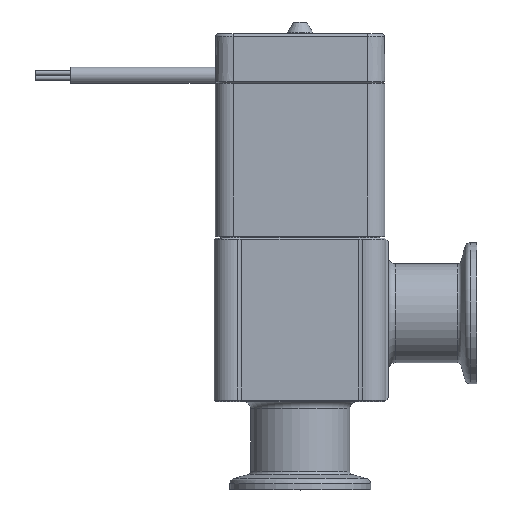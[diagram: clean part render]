
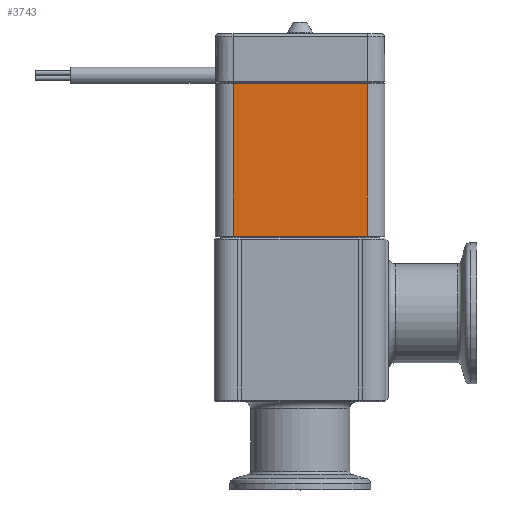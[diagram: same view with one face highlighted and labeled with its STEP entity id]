
A CAD part, top view. The second image highlights one B-rep face of the part: STEP entity #3743.
In plain terms, the highlighted planar face has unit normal (0, 0, 1) as drawn and (0, 0, -1) by its records, which use the part's own axes.
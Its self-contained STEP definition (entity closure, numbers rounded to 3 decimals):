
#2055=FACE_OUTER_BOUND('',#5095,.T.);
#2411=LINE('',#14332,#3062);
#2416=LINE('',#14368,#3067);
#2417=LINE('',#14380,#3068);
#2418=LINE('',#14382,#3069);
#3062=VECTOR('',#11661,1.);
#3067=VECTOR('',#11694,1.);
#3068=VECTOR('',#11707,1.);
#3069=VECTOR('',#11710,1.);
#3743=ADVANCED_FACE('',(#2055),#4203,.F.);
#4203=PLANE('',#10458);
#5095=EDGE_LOOP('',(#6090,#6091,#6092,#6093));
#6090=ORIENTED_EDGE('',*,*,#8926,.T.);
#6091=ORIENTED_EDGE('',*,*,#8933,.F.);
#6092=ORIENTED_EDGE('',*,*,#8908,.F.);
#6093=ORIENTED_EDGE('',*,*,#8932,.T.);
#8053=VERTEX_POINT('',#14331);
#8054=VERTEX_POINT('',#14333);
#8070=VERTEX_POINT('',#14367);
#8071=VERTEX_POINT('',#14369);
#8908=EDGE_CURVE('',#8053,#8054,#2411,.T.);
#8926=EDGE_CURVE('',#8071,#8070,#2416,.T.);
#8932=EDGE_CURVE('',#8053,#8071,#2417,.T.);
#8933=EDGE_CURVE('',#8054,#8070,#2418,.T.);
#10458=AXIS2_PLACEMENT_3D('',#14383,#11711,#11712);
#11661=DIRECTION('',(-1.,0.,0.));
#11694=DIRECTION('',(-1.,0.,0.));
#11707=DIRECTION('',(0.,-1.,0.));
#11710=DIRECTION('',(0.,-1.,0.));
#11711=DIRECTION('',(0.,0.,1.));
#11712=DIRECTION('',(1.,0.,0.));
#14331=CARTESIAN_POINT('',(19.,43.3,-24.));
#14332=CARTESIAN_POINT('',(19.,43.3,-24.));
#14333=CARTESIAN_POINT('',(-19.,43.3,-24.));
#14367=CARTESIAN_POINT('',(-19.,0.,-24.));
#14368=CARTESIAN_POINT('',(19.,0.,-24.));
#14369=CARTESIAN_POINT('',(19.,0.,-24.));
#14380=CARTESIAN_POINT('',(19.,43.3,-24.));
#14382=CARTESIAN_POINT('',(-19.,43.3,-24.));
#14383=CARTESIAN_POINT('',(19.,43.3,-24.));
